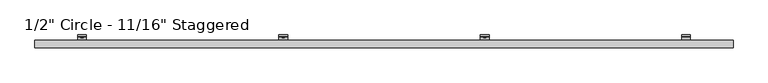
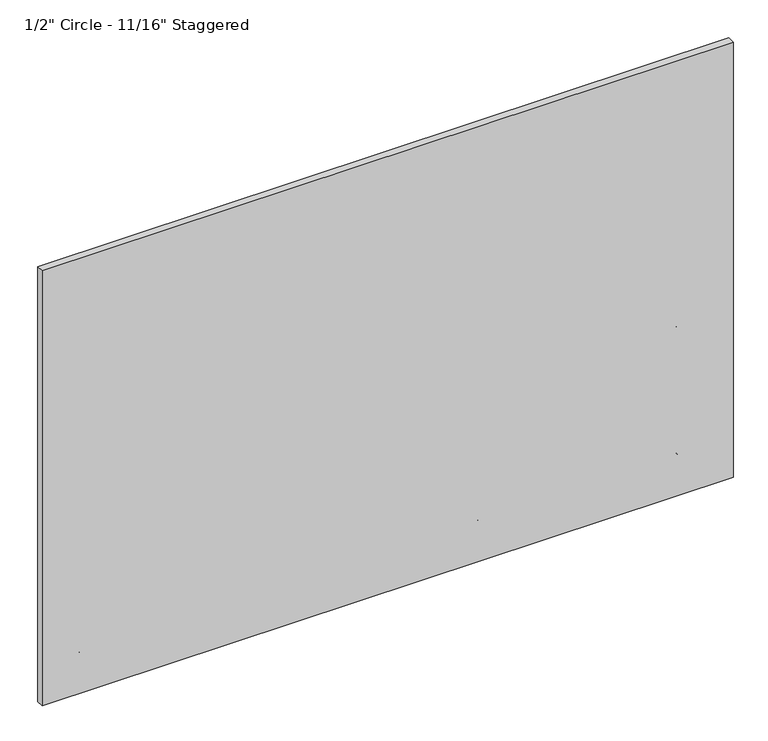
"""IFC4 building model written with IfcOpenShell, lengths in millimetres: plate geometry."""

from ifc_helpers import new_model, si_unit, point, frame, frame_2d, origin, place, context, project, spatial, polyline, circle_curve, trimmed, segment, composite_curve, outline, extrude, source, transform, mapped, element, save
from ifc_brep_helpers import plane_surface, cylinder_surface, revolved_surface, advanced_brep


def plate_a8714ed1(model_context):
    return source(origin(), model_context, "Body", "SolidModel", [
        advanced_brep(
        [(1285.875, -47.625, 737.3555208), (1285.875, -51.2819443, 729.6934884), (1285.875, -89.5163624, 702.9214606), (1285.875, -92.9330442, 706.3381424), (1285.875, -54.3526876, 733.3523989), (1285.875, -52.4002, 737.3555917), (1285.875, -52.4002, 771.5482059), (1285.875, -47.625, 771.5482059), (1323.975, -47.625, 737.3555208), (1323.975, -47.625, 771.5482059), (1323.975, -52.4002, 771.5482059), (1323.975, -52.4002, 737.3555917), (1323.975, -54.3526876, 733.3523989), (1323.975, -92.9330442, 706.3381424), (1323.975, -89.5163624, 702.9214606), (1323.975, -51.2819443, 729.6934884), (1311.6661889, -52.4002, 757.5029897), (1311.6661889, -52.4002, 751.1529897), (1295.4383287, -52.4002, 751.1529897), (1295.4383287, -52.4002, 757.5029897), (1311.6661889, -47.625, 751.1529897), (1311.6661889, -47.625, 757.5029897), (1295.4383287, -47.625, 757.5029897), (1295.4383287, -47.625, 751.1529897)],
        [
            (0, 1, circle_curve(frame((1285.875, -57.4802202, 737.3555208), z_axis=(-1.0, 0.0, 0.0), x_axis=(0.0, -1.0, 0.0)), 9.8552202)),
            (1, 2),
            (2, 3),
            (3, 4),
            (4, 5, circle_curve(frame((1285.875, -57.4803246, 737.3555917), z_axis=(1.0, 0.0, 0.0), x_axis=(0.0, -1.0, 0.0)), 5.0801246)),
            (5, 6),
            (6, 7),
            (7, 0),
            (8, 9),
            (9, 10),
            (10, 11),
            (11, 12, circle_curve(frame((1323.975, -57.4803246, 737.3555917), z_axis=(-1.0, 0.0, 0.0), x_axis=(0.0, -1.0, 0.0)), 5.0801246)),
            (12, 13),
            (13, 14),
            (14, 15),
            (15, 8, circle_curve(frame((1323.975, -57.4802202, 737.3555208), z_axis=(1.0, 0.0, 0.0), x_axis=(0.0, -1.0, 0.0)), 9.8552202)),
            (4, 12),
            (11, 5),
            (10, 6),
            (16, 17, circle_curve(frame((1311.6661889, -52.4002, 754.3279897), z_axis=(0.0, 1.0, 0.0), x_axis=(0.0, 0.0, -1.0)), 3.175)),
            (17, 18),
            (18, 19, circle_curve(frame((1295.4383287, -52.4002, 754.3279897), z_axis=(0.0, 1.0, 0.0), x_axis=(0.0, 0.0, -1.0)), 3.175)),
            (19, 16),
            (9, 7),
            (8, 0),
            (20, 21, circle_curve(frame((1311.6661889, -47.625, 754.3279897), z_axis=(0.0, -1.0, 0.0), x_axis=(0.0, 0.0, -1.0)), 3.175)),
            (21, 22),
            (22, 23, circle_curve(frame((1295.4383287, -47.625, 754.3279897), z_axis=(0.0, -1.0, 0.0), x_axis=(0.0, 0.0, -1.0)), 3.175)),
            (23, 20),
            (15, 1),
            (20, 17),
            (16, 21),
            (19, 22),
            (18, 23),
            (14, 2),
            (13, 3),
        ],
        [
            plane_surface(frame((1285.875, -67.3354404, 737.3555208), z_axis=(-1.0, 0.0, 0.0), x_axis=(0.0, 0.0, 1.0))),
            plane_surface(frame((1323.975, -67.3354404, 737.3555208), z_axis=(1.0, 0.0, 0.0), x_axis=(0.0, 0.0, -1.0))),
            revolved_surface(polyline([(1323.975, -62.5604492, 737.3555917), (1285.875, -62.5604492, 737.3555917)]), (1323.975, -57.4803246, 737.3555917), (1.0, 0.0, 0.0)),
            plane_surface(frame((1285.875, -52.4002, 737.3555917), z_axis=(0.0, -1.0, 0.0), x_axis=(1.0, 0.0, 0.0))),
            plane_surface(frame((1285.875, -52.4002, 771.5482059), z_axis=(0.0, 0.0, 1.0), x_axis=(1.0, 0.0, 0.0))),
            plane_surface(frame((1285.875, -47.625, 771.5482059), z_axis=(0.0, 1.0, 6.99569853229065e-12), x_axis=(1.0, 0.0, 0.0))),
            cylinder_surface(frame((1323.975, -57.4802202, 737.3555208), z_axis=(-1.0, 0.0, 0.0), x_axis=(0.0, -1.0, 0.0)), 9.8552202),
            revolved_surface(polyline([(1311.6661889, -52.4002, 751.1529897), (1311.6661889, -47.625, 751.1529897)]), (1311.6661889, -25.6669948, 754.3279897), (0.0, -1.0, 0.0)),
            plane_surface(frame((1311.6661889, -86.677982, 757.5029897), z_axis=(0.0, 0.0, -1.0), x_axis=(0.0, 1.0, 0.0))),
            revolved_surface(polyline([(1295.4383287, -52.4002, 751.1529897), (1295.4383287, -47.625, 751.1529897)]), (1295.4383287, -25.6669948, 754.3279897), (0.0, -1.0, 0.0)),
            plane_surface(frame((1295.4383287, -86.677982, 751.1529897), z_axis=(-2.7237733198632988e-11, 0.0, 1.0), x_axis=(0.0, 1.0, 0.0))),
            plane_surface(frame((1285.875, -51.2819443, 729.6934884), z_axis=(0.0, 0.5735764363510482, -0.8191520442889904), x_axis=(1.0, 0.0, 0.0))),
            plane_surface(frame((1285.875, -89.5163624, 702.9214606), z_axis=(0.0, -0.7071067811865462, -0.7071067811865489), x_axis=(1.0, 0.0, 0.0))),
            plane_surface(frame((1285.875, -92.9330442, 706.3381424), z_axis=(0.0, -0.5735764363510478, 0.8191520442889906), x_axis=(1.0, 0.0, 0.0))),
        ],
        [
            (0, [[1, 2, 3, 4, 5, 6, 7, 8]]),
            (1, [[9, 10, 11, 12, 13, 14, 15, 16]]),
            (2, [[-5, 17, -12, 18]]),
            (3, [[-6, -18, -11, 19], [20, 21, 22, 23]]),
            (4, [[-7, -19, -10, 24]]),
            (5, [[-8, -24, -9, 25], [26, 27, 28, 29]]),
            (6, [[-1, -25, -16, 30]]),
            (7, [[31, -20, 32, -26]]),
            (8, [[-32, -23, 33, -27]]),
            (9, [[-33, -22, 34, -28]]),
            (10, [[-31, -29, -34, -21]]),
            (11, [[-2, -30, -15, 35]]),
            (12, [[-3, -35, -14, 36]]),
            (13, [[-4, -36, -13, -17]]),
        ],
    ),
        extrude(outline(polyline([(754.5048329, 429.9570034), (750.1591204, 432.4660017), (750.1591204, 437.4839983), (754.5048329, 439.9929966), (758.8505454, 437.4839983), (758.8505454, 432.4660017), (754.5048329, 429.9570034)])), frame((0.0, -58.7607779, 0.0), z_axis=(0.0, 1.0, 0.0), x_axis=(0.0, 0.0, 1.0)), (0.0, 0.0, 1.0), 11.1357779),
        extrude(outline(composite_curve([segment(trimmed(circle_curve(frame_2d((754.5981399, 434.975)), 6.35), [point((754.5981399, 441.325))], [point((754.5981399, 428.625))], False, "CARTESIAN"), True, "CONTINUOUS"), segment(trimmed(circle_curve(frame_2d((754.5981399, 434.975)), 6.35), [point((754.5981399, 428.625))], [point((754.5981399, 441.325))], False, "CARTESIAN"), True, "CONTINUOUS")], self_intersect=False)), frame((0.0, -57.0817743, 0.0), z_axis=(0.0, 1.0, 0.0), x_axis=(0.0, 0.0, 1.0)), (0.0, 0.0, 1.0), 9.4567743),
        advanced_brep(
        [(415.925, -47.625, 737.3555208), (415.925, -51.2819443, 729.6934884), (415.925, -89.5163624, 702.9214606), (415.925, -92.9330442, 706.3381424), (415.925, -54.3526876, 733.3523989), (415.925, -52.4002, 737.3555917), (415.925, -52.4002, 771.5482059), (415.925, -47.625, 771.5482059), (454.025, -47.625, 737.3555208), (454.025, -47.625, 771.5482059), (454.025, -52.4002, 771.5482059), (454.025, -52.4002, 737.3555917), (454.025, -54.3526876, 733.3523989), (454.025, -92.9330442, 706.3381424), (454.025, -89.5163624, 702.9214606), (454.025, -51.2819443, 729.6934884), (441.7161889, -52.4002, 757.5029897), (441.7161889, -52.4002, 751.1529897), (425.4883287, -52.4002, 751.1529897), (425.4883287, -52.4002, 757.5029897), (441.7161889, -47.625, 751.1529897), (441.7161889, -47.625, 757.5029897), (425.4883287, -47.625, 757.5029897), (425.4883287, -47.625, 751.1529897)],
        [
            (0, 1, circle_curve(frame((415.925, -57.4802202, 737.3555208), z_axis=(-1.0, 0.0, 0.0), x_axis=(0.0, -1.0, 0.0)), 9.8552202)),
            (1, 2),
            (2, 3),
            (3, 4),
            (4, 5, circle_curve(frame((415.925, -57.4803246, 737.3555917), z_axis=(1.0, 0.0, 0.0), x_axis=(0.0, -1.0, 0.0)), 5.0801246)),
            (5, 6),
            (6, 7),
            (7, 0),
            (8, 9),
            (9, 10),
            (10, 11),
            (11, 12, circle_curve(frame((454.025, -57.4803246, 737.3555917), z_axis=(-1.0, 0.0, 0.0), x_axis=(0.0, -1.0, 0.0)), 5.0801246)),
            (12, 13),
            (13, 14),
            (14, 15),
            (15, 8, circle_curve(frame((454.025, -57.4802202, 737.3555208), z_axis=(1.0, 0.0, 0.0), x_axis=(0.0, -1.0, 0.0)), 9.8552202)),
            (4, 12),
            (11, 5),
            (10, 6),
            (16, 17, circle_curve(frame((441.7161889, -52.4002, 754.3279897), z_axis=(0.0, 1.0, 0.0), x_axis=(0.0, 0.0, -1.0)), 3.175)),
            (17, 18),
            (18, 19, circle_curve(frame((425.4883287, -52.4002, 754.3279897), z_axis=(0.0, 1.0, 0.0), x_axis=(0.0, 0.0, -1.0)), 3.175)),
            (19, 16),
            (9, 7),
            (8, 0),
            (20, 21, circle_curve(frame((441.7161889, -47.625, 754.3279897), z_axis=(0.0, -1.0, 0.0), x_axis=(0.0, 0.0, -1.0)), 3.175)),
            (21, 22),
            (22, 23, circle_curve(frame((425.4883287, -47.625, 754.3279897), z_axis=(0.0, -1.0, 0.0), x_axis=(0.0, 0.0, -1.0)), 3.175)),
            (23, 20),
            (15, 1),
            (20, 17),
            (16, 21),
            (19, 22),
            (18, 23),
            (14, 2),
            (13, 3),
        ],
        [
            plane_surface(frame((415.925, -67.3354404, 737.3555208), z_axis=(-1.0, 0.0, 0.0), x_axis=(0.0, 0.0, 1.0))),
            plane_surface(frame((454.025, -67.3354404, 737.3555208), z_axis=(1.0, 0.0, 0.0), x_axis=(0.0, 0.0, -1.0))),
            revolved_surface(polyline([(454.025, -62.5604492, 737.3555917), (415.925, -62.5604492, 737.3555917)]), (454.025, -57.4803246, 737.3555917), (1.0, 0.0, 0.0)),
            plane_surface(frame((415.925, -52.4002, 737.3555917), z_axis=(0.0, -1.0, 0.0), x_axis=(1.0, 0.0, 0.0))),
            plane_surface(frame((415.925, -52.4002, 771.5482059), z_axis=(0.0, 0.0, 1.0), x_axis=(1.0, 0.0, 0.0))),
            plane_surface(frame((415.925, -47.625, 771.5482059), z_axis=(0.0, 1.0, 6.99569853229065e-12), x_axis=(1.0, 0.0, 0.0))),
            cylinder_surface(frame((454.025, -57.4802202, 737.3555208), z_axis=(-1.0, 0.0, 0.0), x_axis=(0.0, -1.0, 0.0)), 9.8552202),
            revolved_surface(polyline([(441.7161889, -52.4002, 751.1529897), (441.7161889, -47.625, 751.1529897)]), (441.7161889, -25.6669948, 754.3279897), (0.0, -1.0, 0.0)),
            plane_surface(frame((441.7161889, -86.677982, 757.5029897), z_axis=(0.0, 0.0, -1.0), x_axis=(0.0, 1.0, 0.0))),
            revolved_surface(polyline([(425.4883287, -52.4002, 751.1529897), (425.4883287, -47.625, 751.1529897)]), (425.4883287, -25.6669948, 754.3279897), (0.0, -1.0, 0.0)),
            plane_surface(frame((425.4883287, -86.677982, 751.1529897), z_axis=(-2.7237733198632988e-11, 0.0, 1.0), x_axis=(0.0, 1.0, 0.0))),
            plane_surface(frame((415.925, -51.2819443, 729.6934884), z_axis=(0.0, 0.5735764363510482, -0.8191520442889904), x_axis=(1.0, 0.0, 0.0))),
            plane_surface(frame((415.925, -89.5163624, 702.9214606), z_axis=(0.0, -0.7071067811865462, -0.7071067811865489), x_axis=(1.0, 0.0, 0.0))),
            plane_surface(frame((415.925, -92.9330442, 706.3381424), z_axis=(0.0, -0.5735764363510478, 0.8191520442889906), x_axis=(1.0, 0.0, 0.0))),
        ],
        [
            (0, [[1, 2, 3, 4, 5, 6, 7, 8]]),
            (1, [[9, 10, 11, 12, 13, 14, 15, 16]]),
            (2, [[-5, 17, -12, 18]]),
            (3, [[-6, -18, -11, 19], [20, 21, 22, 23]]),
            (4, [[-7, -19, -10, 24]]),
            (5, [[-8, -24, -9, 25], [26, 27, 28, 29]]),
            (6, [[-1, -25, -16, 30]]),
            (7, [[31, -20, 32, -26]]),
            (8, [[-32, -23, 33, -27]]),
            (9, [[-33, -22, 34, -28]]),
            (10, [[-31, -29, -34, -21]]),
            (11, [[-2, -30, -15, 35]]),
            (12, [[-3, -35, -14, 36]]),
            (13, [[-4, -36, -13, -17]]),
        ],
    ),
        extrude(outline(polyline([(754.5048329, -439.9929966), (750.1591204, -437.4839983), (750.1591204, -432.4660017), (754.5048329, -429.9570034), (758.8505454, -432.4660017), (758.8505454, -437.4839983), (754.5048329, -439.9929966)])), frame((0.0, -58.7607779, 0.0), z_axis=(0.0, 1.0, 0.0), x_axis=(0.0, 0.0, 1.0)), (0.0, 0.0, 1.0), 11.1357779),
        extrude(outline(composite_curve([segment(trimmed(circle_curve(frame_2d((754.5981399, -434.975)), 6.35), [point((754.5981399, -428.625))], [point((754.5981399, -441.325))], False, "CARTESIAN"), True, "CONTINUOUS"), segment(trimmed(circle_curve(frame_2d((754.5981399, -434.975)), 6.35), [point((754.5981399, -441.325))], [point((754.5981399, -428.625))], False, "CARTESIAN"), True, "CONTINUOUS")], self_intersect=False)), frame((0.0, -57.0817743, 0.0), z_axis=(0.0, 1.0, 0.0), x_axis=(0.0, 0.0, 1.0)), (0.0, 0.0, 1.0), 9.4567743),
        advanced_brep(
        [(-454.025, -47.625, 737.3555208), (-454.025, -51.2819443, 729.6934884), (-454.025, -89.5163624, 702.9214606), (-454.025, -92.9330442, 706.3381424), (-454.025, -54.3526876, 733.3523989), (-454.025, -52.4002, 737.3555917), (-454.025, -52.4002, 771.5482059), (-454.025, -47.625, 771.5482059), (-415.925, -47.625, 737.3555208), (-415.925, -47.625, 771.5482059), (-415.925, -52.4002, 771.5482059), (-415.925, -52.4002, 737.3555917), (-415.925, -54.3526876, 733.3523989), (-415.925, -92.9330442, 706.3381424), (-415.925, -89.5163624, 702.9214606), (-415.925, -51.2819443, 729.6934884), (-428.2338111, -52.4002, 757.5029897), (-428.2338111, -52.4002, 751.1529897), (-444.4616713, -52.4002, 751.1529897), (-444.4616713, -52.4002, 757.5029897), (-428.2338111, -47.625, 751.1529897), (-428.2338111, -47.625, 757.5029897), (-444.4616713, -47.625, 757.5029897), (-444.4616713, -47.625, 751.1529897)],
        [
            (0, 1, circle_curve(frame((-454.025, -57.4802202, 737.3555208), z_axis=(-1.0, 0.0, 0.0), x_axis=(0.0, -1.0, 0.0)), 9.8552202)),
            (1, 2),
            (2, 3),
            (3, 4),
            (4, 5, circle_curve(frame((-454.025, -57.4803246, 737.3555917), z_axis=(1.0, 0.0, 0.0), x_axis=(0.0, -1.0, 0.0)), 5.0801246)),
            (5, 6),
            (6, 7),
            (7, 0),
            (8, 9),
            (9, 10),
            (10, 11),
            (11, 12, circle_curve(frame((-415.925, -57.4803246, 737.3555917), z_axis=(-1.0, 0.0, 0.0), x_axis=(0.0, -1.0, 0.0)), 5.0801246)),
            (12, 13),
            (13, 14),
            (14, 15),
            (15, 8, circle_curve(frame((-415.925, -57.4802202, 737.3555208), z_axis=(1.0, 0.0, 0.0), x_axis=(0.0, -1.0, 0.0)), 9.8552202)),
            (4, 12),
            (11, 5),
            (10, 6),
            (16, 17, circle_curve(frame((-428.2338111, -52.4002, 754.3279897), z_axis=(0.0, 1.0, 0.0), x_axis=(0.0, 0.0, -1.0)), 3.175)),
            (17, 18),
            (18, 19, circle_curve(frame((-444.4616713, -52.4002, 754.3279897), z_axis=(0.0, 1.0, 0.0), x_axis=(0.0, 0.0, -1.0)), 3.175)),
            (19, 16),
            (9, 7),
            (8, 0),
            (20, 21, circle_curve(frame((-428.2338111, -47.625, 754.3279897), z_axis=(0.0, -1.0, 0.0), x_axis=(0.0, 0.0, -1.0)), 3.175)),
            (21, 22),
            (22, 23, circle_curve(frame((-444.4616713, -47.625, 754.3279897), z_axis=(0.0, -1.0, 0.0), x_axis=(0.0, 0.0, -1.0)), 3.175)),
            (23, 20),
            (15, 1),
            (20, 17),
            (16, 21),
            (19, 22),
            (18, 23),
            (14, 2),
            (13, 3),
        ],
        [
            plane_surface(frame((-454.025, -67.3354404, 737.3555208), z_axis=(-1.0, 0.0, 0.0), x_axis=(0.0, 0.0, 1.0))),
            plane_surface(frame((-415.925, -67.3354404, 737.3555208), z_axis=(1.0, 0.0, 0.0), x_axis=(0.0, 0.0, -1.0))),
            revolved_surface(polyline([(-415.925, -62.5604492, 737.3555917), (-454.025, -62.5604492, 737.3555917)]), (-415.925, -57.4803246, 737.3555917), (1.0, 0.0, 0.0)),
            plane_surface(frame((-454.025, -52.4002, 737.3555917), z_axis=(0.0, -1.0, 0.0), x_axis=(1.0, 0.0, 0.0))),
            plane_surface(frame((-454.025, -52.4002, 771.5482059), z_axis=(0.0, 0.0, 1.0), x_axis=(1.0, 0.0, 0.0))),
            plane_surface(frame((-454.025, -47.625, 771.5482059), z_axis=(0.0, 1.0, 6.99569853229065e-12), x_axis=(1.0, 0.0, 0.0))),
            cylinder_surface(frame((-415.925, -57.4802202, 737.3555208), z_axis=(-1.0, 0.0, 0.0), x_axis=(0.0, -1.0, 0.0)), 9.8552202),
            revolved_surface(polyline([(-428.2338111, -52.4002, 751.1529897), (-428.2338111, -47.625, 751.1529897)]), (-428.2338111, -25.6669948, 754.3279897), (0.0, -1.0, 0.0)),
            plane_surface(frame((-428.2338111, -86.677982, 757.5029897), z_axis=(0.0, 0.0, -1.0), x_axis=(0.0, 1.0, 0.0))),
            revolved_surface(polyline([(-444.4616713, -52.4002, 751.1529897), (-444.4616713, -47.625, 751.1529897)]), (-444.4616713, -25.6669948, 754.3279897), (0.0, -1.0, 0.0)),
            plane_surface(frame((-444.4616713, -86.677982, 751.1529897), z_axis=(-2.7237733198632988e-11, 0.0, 1.0), x_axis=(0.0, 1.0, 0.0))),
            plane_surface(frame((-454.025, -51.2819443, 729.6934884), z_axis=(0.0, 0.5735764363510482, -0.8191520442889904), x_axis=(1.0, 0.0, 0.0))),
            plane_surface(frame((-454.025, -89.5163624, 702.9214606), z_axis=(0.0, -0.7071067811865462, -0.7071067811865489), x_axis=(1.0, 0.0, 0.0))),
            plane_surface(frame((-454.025, -92.9330442, 706.3381424), z_axis=(0.0, -0.5735764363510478, 0.8191520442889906), x_axis=(1.0, 0.0, 0.0))),
        ],
        [
            (0, [[1, 2, 3, 4, 5, 6, 7, 8]]),
            (1, [[9, 10, 11, 12, 13, 14, 15, 16]]),
            (2, [[-5, 17, -12, 18]]),
            (3, [[-6, -18, -11, 19], [20, 21, 22, 23]]),
            (4, [[-7, -19, -10, 24]]),
            (5, [[-8, -24, -9, 25], [26, 27, 28, 29]]),
            (6, [[-1, -25, -16, 30]]),
            (7, [[31, -20, 32, -26]]),
            (8, [[-32, -23, 33, -27]]),
            (9, [[-33, -22, 34, -28]]),
            (10, [[-31, -29, -34, -21]]),
            (11, [[-2, -30, -15, 35]]),
            (12, [[-3, -35, -14, 36]]),
            (13, [[-4, -36, -13, -17]]),
        ],
    ),
        extrude(outline(polyline([(754.5048329, -1309.9429966), (750.1591204, -1307.4339983), (750.1591204, -1302.4160017), (754.5048329, -1299.9070034), (758.8505454, -1302.4160017), (758.8505454, -1307.4339983), (754.5048329, -1309.9429966)])), frame((0.0, -58.7607779, 0.0), z_axis=(0.0, 1.0, 0.0), x_axis=(0.0, 0.0, 1.0)), (0.0, 0.0, 1.0), 11.1357779),
        extrude(outline(composite_curve([segment(trimmed(circle_curve(frame_2d((754.5981399, -1304.925)), 6.35), [point((754.5981399, -1298.575))], [point((754.5981399, -1311.275))], False, "CARTESIAN"), True, "CONTINUOUS"), segment(trimmed(circle_curve(frame_2d((754.5981399, -1304.925)), 6.35), [point((754.5981399, -1311.275))], [point((754.5981399, -1298.575))], False, "CARTESIAN"), True, "CONTINUOUS")], self_intersect=False)), frame((0.0, -57.0817743, 0.0), z_axis=(0.0, 1.0, 0.0), x_axis=(0.0, 0.0, 1.0)), (0.0, 0.0, 1.0), 9.4567743),
        advanced_brep(
        [(-1323.975, -47.625, 737.3555208), (-1323.975, -51.2819443, 729.6934884), (-1323.975, -89.5163624, 702.9214606), (-1323.975, -92.9330442, 706.3381424), (-1323.975, -54.3526876, 733.3523989), (-1323.975, -52.4002, 737.3555917), (-1323.975, -52.4002, 771.5482059), (-1323.975, -47.625, 771.5482059), (-1285.875, -47.625, 737.3555208), (-1285.875, -47.625, 771.5482059), (-1285.875, -52.4002, 771.5482059), (-1285.875, -52.4002, 737.3555917), (-1285.875, -54.3526876, 733.3523989), (-1285.875, -92.9330442, 706.3381424), (-1285.875, -89.5163624, 702.9214606), (-1285.875, -51.2819443, 729.6934884), (-1298.1838111, -52.4002, 757.5029897), (-1298.1838111, -52.4002, 751.1529897), (-1314.4116713, -52.4002, 751.1529897), (-1314.4116713, -52.4002, 757.5029897), (-1298.1838111, -47.625, 751.1529897), (-1298.1838111, -47.625, 757.5029897), (-1314.4116713, -47.625, 757.5029897), (-1314.4116713, -47.625, 751.1529897)],
        [
            (0, 1, circle_curve(frame((-1323.975, -57.4802202, 737.3555208), z_axis=(-1.0, 0.0, 0.0), x_axis=(0.0, -1.0, 0.0)), 9.8552202)),
            (1, 2),
            (2, 3),
            (3, 4),
            (4, 5, circle_curve(frame((-1323.975, -57.4803246, 737.3555917), z_axis=(1.0, 0.0, 0.0), x_axis=(0.0, -1.0, 0.0)), 5.0801246)),
            (5, 6),
            (6, 7),
            (7, 0),
            (8, 9),
            (9, 10),
            (10, 11),
            (11, 12, circle_curve(frame((-1285.875, -57.4803246, 737.3555917), z_axis=(-1.0, 0.0, 0.0), x_axis=(0.0, -1.0, 0.0)), 5.0801246)),
            (12, 13),
            (13, 14),
            (14, 15),
            (15, 8, circle_curve(frame((-1285.875, -57.4802202, 737.3555208), z_axis=(1.0, 0.0, 0.0), x_axis=(0.0, -1.0, 0.0)), 9.8552202)),
            (4, 12),
            (11, 5),
            (10, 6),
            (16, 17, circle_curve(frame((-1298.1838111, -52.4002, 754.3279897), z_axis=(0.0, 1.0, 0.0), x_axis=(0.0, 0.0, -1.0)), 3.175)),
            (17, 18),
            (18, 19, circle_curve(frame((-1314.4116713, -52.4002, 754.3279897), z_axis=(0.0, 1.0, 0.0), x_axis=(0.0, 0.0, -1.0)), 3.175)),
            (19, 16),
            (9, 7),
            (8, 0),
            (20, 21, circle_curve(frame((-1298.1838111, -47.625, 754.3279897), z_axis=(0.0, -1.0, 0.0), x_axis=(0.0, 0.0, -1.0)), 3.175)),
            (21, 22),
            (22, 23, circle_curve(frame((-1314.4116713, -47.625, 754.3279897), z_axis=(0.0, -1.0, 0.0), x_axis=(0.0, 0.0, -1.0)), 3.175)),
            (23, 20),
            (15, 1),
            (20, 17),
            (16, 21),
            (19, 22),
            (18, 23),
            (14, 2),
            (13, 3),
        ],
        [
            plane_surface(frame((-1323.975, -67.3354404, 737.3555208), z_axis=(-1.0, 0.0, 0.0), x_axis=(0.0, 0.0, 1.0))),
            plane_surface(frame((-1285.875, -67.3354404, 737.3555208), z_axis=(1.0, 0.0, 0.0), x_axis=(0.0, 0.0, -1.0))),
            revolved_surface(polyline([(-1285.875, -62.5604492, 737.3555917), (-1323.975, -62.5604492, 737.3555917)]), (-1285.875, -57.4803246, 737.3555917), (1.0, 0.0, 0.0)),
            plane_surface(frame((-1323.975, -52.4002, 737.3555917), z_axis=(0.0, -1.0, 0.0), x_axis=(1.0, 0.0, 0.0))),
            plane_surface(frame((-1323.975, -52.4002, 771.5482059), z_axis=(0.0, 0.0, 1.0), x_axis=(1.0, 0.0, 0.0))),
            plane_surface(frame((-1323.975, -47.625, 771.5482059), z_axis=(0.0, 1.0, 6.99569853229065e-12), x_axis=(1.0, 0.0, 0.0))),
            cylinder_surface(frame((-1285.875, -57.4802202, 737.3555208), z_axis=(-1.0, 0.0, 0.0), x_axis=(0.0, -1.0, 0.0)), 9.8552202),
            revolved_surface(polyline([(-1298.1838111, -52.4002, 751.1529897), (-1298.1838111, -47.625, 751.1529897)]), (-1298.1838111, -25.6669948, 754.3279897), (0.0, -1.0, 0.0)),
            plane_surface(frame((-1298.1838111, -86.677982, 757.5029897), z_axis=(0.0, 0.0, -1.0), x_axis=(0.0, 1.0, 0.0))),
            revolved_surface(polyline([(-1314.4116713, -52.4002, 751.1529897), (-1314.4116713, -47.625, 751.1529897)]), (-1314.4116713, -25.6669948, 754.3279897), (0.0, -1.0, 0.0)),
            plane_surface(frame((-1314.4116713, -86.677982, 751.1529897), z_axis=(-2.7237733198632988e-11, 0.0, 1.0), x_axis=(0.0, 1.0, 0.0))),
            plane_surface(frame((-1323.975, -51.2819443, 729.6934884), z_axis=(0.0, 0.5735764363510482, -0.8191520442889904), x_axis=(1.0, 0.0, 0.0))),
            plane_surface(frame((-1323.975, -89.5163624, 702.9214606), z_axis=(0.0, -0.7071067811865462, -0.7071067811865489), x_axis=(1.0, 0.0, 0.0))),
            plane_surface(frame((-1323.975, -92.9330442, 706.3381424), z_axis=(0.0, -0.5735764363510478, 0.8191520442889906), x_axis=(1.0, 0.0, 0.0))),
        ],
        [
            (0, [[1, 2, 3, 4, 5, 6, 7, 8]]),
            (1, [[9, 10, 11, 12, 13, 14, 15, 16]]),
            (2, [[-5, 17, -12, 18]]),
            (3, [[-6, -18, -11, 19], [20, 21, 22, 23]]),
            (4, [[-7, -19, -10, 24]]),
            (5, [[-8, -24, -9, 25], [26, 27, 28, 29]]),
            (6, [[-1, -25, -16, 30]]),
            (7, [[31, -20, 32, -26]]),
            (8, [[-32, -23, 33, -27]]),
            (9, [[-33, -22, 34, -28]]),
            (10, [[-31, -29, -34, -21]]),
            (11, [[-2, -30, -15, 35]]),
            (12, [[-3, -35, -14, 36]]),
            (13, [[-4, -36, -13, -17]]),
        ],
    ),
        extrude(outline(polyline([(169.8795323, 1299.9070034), (165.5338197, 1302.4160017), (165.5338197, 1307.4339983), (169.8795323, 1309.9429966), (174.2252448, 1307.4339983), (174.2252448, 1302.4160017), (169.8795323, 1299.9070034)])), frame((0.0, -58.7607779, 0.0), z_axis=(0.0, 1.0, 0.0), x_axis=(0.0, 0.0, 1.0)), (0.0, 0.0, 1.0), 11.1357779),
        extrude(outline(composite_curve([segment(trimmed(circle_curve(frame_2d((169.9728392, 1304.925)), 6.35), [point((169.9728392, 1311.275))], [point((169.9728392, 1298.575))], False, "CARTESIAN"), True, "CONTINUOUS"), segment(trimmed(circle_curve(frame_2d((169.9728392, 1304.925)), 6.35), [point((169.9728392, 1298.575))], [point((169.9728392, 1311.275))], False, "CARTESIAN"), True, "CONTINUOUS")], self_intersect=False)), frame((0.0, -57.0817743, 0.0), z_axis=(0.0, 1.0, 0.0), x_axis=(0.0, 0.0, 1.0)), (0.0, 0.0, 1.0), 9.4567743),
        advanced_brep(
        [(1285.875, -47.625, 152.7302202), (1285.875, -51.2819443, 145.0681877), (1285.875, -89.5163624, 118.29616), (1285.875, -92.9330442, 121.7128418), (1285.875, -54.3526876, 148.7270983), (1285.875, -52.4002, 152.7302911), (1285.875, -52.4002, 186.9229053), (1285.875, -47.625, 186.9229053), (1323.975, -47.625, 152.7302202), (1323.975, -47.625, 186.9229053), (1323.975, -52.4002, 186.9229053), (1323.975, -52.4002, 152.7302911), (1323.975, -54.3526876, 148.7270983), (1323.975, -92.9330442, 121.7128418), (1323.975, -89.5163624, 118.29616), (1323.975, -51.2819443, 145.0681877), (1311.6661889, -52.4002, 172.8776891), (1311.6661889, -52.4002, 166.5276891), (1295.4383287, -52.4002, 166.5276891), (1295.4383287, -52.4002, 172.8776891), (1311.6661889, -47.625, 166.5276891), (1311.6661889, -47.625, 172.8776891), (1295.4383287, -47.625, 172.8776891), (1295.4383287, -47.625, 166.5276891)],
        [
            (0, 1, circle_curve(frame((1285.875, -57.4802202, 152.7302202), z_axis=(-1.0, 0.0, 0.0), x_axis=(0.0, -1.0, 0.0)), 9.8552202)),
            (1, 2),
            (2, 3),
            (3, 4),
            (4, 5, circle_curve(frame((1285.875, -57.4803246, 152.7302911), z_axis=(1.0, 0.0, 0.0), x_axis=(0.0, -1.0, 0.0)), 5.0801246)),
            (5, 6),
            (6, 7),
            (7, 0),
            (8, 9),
            (9, 10),
            (10, 11),
            (11, 12, circle_curve(frame((1323.975, -57.4803246, 152.7302911), z_axis=(-1.0, 0.0, 0.0), x_axis=(0.0, -1.0, 0.0)), 5.0801246)),
            (12, 13),
            (13, 14),
            (14, 15),
            (15, 8, circle_curve(frame((1323.975, -57.4802202, 152.7302202), z_axis=(1.0, 0.0, 0.0), x_axis=(0.0, -1.0, 0.0)), 9.8552202)),
            (4, 12),
            (11, 5),
            (10, 6),
            (16, 17, circle_curve(frame((1311.6661889, -52.4002, 169.7026891), z_axis=(0.0, 1.0, 0.0), x_axis=(0.0, 0.0, -1.0)), 3.175)),
            (17, 18),
            (18, 19, circle_curve(frame((1295.4383287, -52.4002, 169.7026891), z_axis=(0.0, 1.0, 0.0), x_axis=(0.0, 0.0, -1.0)), 3.175)),
            (19, 16),
            (9, 7),
            (8, 0),
            (20, 21, circle_curve(frame((1311.6661889, -47.625, 169.7026891), z_axis=(0.0, -1.0, 0.0), x_axis=(0.0, 0.0, -1.0)), 3.175)),
            (21, 22),
            (22, 23, circle_curve(frame((1295.4383287, -47.625, 169.7026891), z_axis=(0.0, -1.0, 0.0), x_axis=(0.0, 0.0, -1.0)), 3.175)),
            (23, 20),
            (15, 1),
            (20, 17),
            (16, 21),
            (19, 22),
            (18, 23),
            (14, 2),
            (13, 3),
        ],
        [
            plane_surface(frame((1285.875, -67.3354404, 152.7302202), z_axis=(-1.0, 0.0, 0.0), x_axis=(0.0, 0.0, 1.0))),
            plane_surface(frame((1323.975, -67.3354404, 152.7302202), z_axis=(1.0, 0.0, 0.0), x_axis=(0.0, 0.0, -1.0))),
            revolved_surface(polyline([(1323.975, -62.5604492, 152.7302911), (1285.875, -62.5604492, 152.7302911)]), (1323.975, -57.4803246, 152.7302911), (1.0, 0.0, 0.0)),
            plane_surface(frame((1285.875, -52.4002, 152.7302911), z_axis=(0.0, -1.0, 0.0), x_axis=(1.0, 0.0, 0.0))),
            plane_surface(frame((1285.875, -52.4002, 186.9229053), z_axis=(0.0, 0.0, 1.0), x_axis=(1.0, 0.0, 0.0))),
            plane_surface(frame((1285.875, -47.625, 186.9229053), z_axis=(0.0, 1.0, 6.99569853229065e-12), x_axis=(1.0, 0.0, 0.0))),
            cylinder_surface(frame((1323.975, -57.4802202, 152.7302202), z_axis=(-1.0, 0.0, 0.0), x_axis=(0.0, -1.0, 0.0)), 9.8552202),
            revolved_surface(polyline([(1311.6661889, -52.4002, 166.52768909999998), (1311.6661889, -47.625, 166.52768909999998)]), (1311.6661889, -25.6669948, 169.7026891), (0.0, -1.0, 0.0)),
            plane_surface(frame((1311.6661889, -86.677982, 172.8776891), z_axis=(0.0, 0.0, -1.0), x_axis=(0.0, 1.0, 0.0))),
            revolved_surface(polyline([(1295.4383287, -52.4002, 166.52768909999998), (1295.4383287, -47.625, 166.52768909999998)]), (1295.4383287, -25.6669948, 169.7026891), (0.0, -1.0, 0.0)),
            plane_surface(frame((1295.4383287, -86.677982, 166.5276891), z_axis=(-2.723774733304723e-11, 0.0, 1.0), x_axis=(0.0, 1.0, 0.0))),
            plane_surface(frame((1285.875, -51.2819443, 145.0681877), z_axis=(0.0, 0.5735764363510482, -0.8191520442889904), x_axis=(1.0, 0.0, 0.0))),
            plane_surface(frame((1285.875, -89.5163624, 118.29616), z_axis=(0.0, -0.7071067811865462, -0.7071067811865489), x_axis=(1.0, 0.0, 0.0))),
            plane_surface(frame((1285.875, -92.9330442, 121.7128418), z_axis=(0.0, -0.5735764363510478, 0.8191520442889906), x_axis=(1.0, 0.0, 0.0))),
        ],
        [
            (0, [[1, 2, 3, 4, 5, 6, 7, 8]]),
            (1, [[9, 10, 11, 12, 13, 14, 15, 16]]),
            (2, [[-5, 17, -12, 18]]),
            (3, [[-6, -18, -11, 19], [20, 21, 22, 23]]),
            (4, [[-7, -19, -10, 24]]),
            (5, [[-8, -24, -9, 25], [26, 27, 28, 29]]),
            (6, [[-1, -25, -16, 30]]),
            (7, [[31, -20, 32, -26]]),
            (8, [[-32, -23, 33, -27]]),
            (9, [[-33, -22, 34, -28]]),
            (10, [[-31, -29, -34, -21]]),
            (11, [[-2, -30, -15, 35]]),
            (12, [[-3, -35, -14, 36]]),
            (13, [[-4, -36, -13, -17]]),
        ],
    ),
        extrude(outline(polyline([(169.8795323, 429.9570034), (165.5338197, 432.4660017), (165.5338197, 437.4839983), (169.8795323, 439.9929966), (174.2252448, 437.4839983), (174.2252448, 432.4660017), (169.8795323, 429.9570034)])), frame((0.0, -58.7607779, 0.0), z_axis=(0.0, 1.0, 0.0), x_axis=(0.0, 0.0, 1.0)), (0.0, 0.0, 1.0), 11.1357779),
        extrude(outline(composite_curve([segment(trimmed(circle_curve(frame_2d((169.9728392, 434.975)), 6.35), [point((169.9728392, 441.325))], [point((169.9728392, 428.625))], False, "CARTESIAN"), True, "CONTINUOUS"), segment(trimmed(circle_curve(frame_2d((169.9728392, 434.975)), 6.35), [point((169.9728392, 428.625))], [point((169.9728392, 441.325))], False, "CARTESIAN"), True, "CONTINUOUS")], self_intersect=False)), frame((0.0, -57.0817743, 0.0), z_axis=(0.0, 1.0, 0.0), x_axis=(0.0, 0.0, 1.0)), (0.0, 0.0, 1.0), 9.4567743),
        advanced_brep(
        [(415.925, -47.625, 152.7302202), (415.925, -51.2819443, 145.0681877), (415.925, -89.5163624, 118.29616), (415.925, -92.9330442, 121.7128418), (415.925, -54.3526876, 148.7270983), (415.925, -52.4002, 152.7302911), (415.925, -52.4002, 186.9229053), (415.925, -47.625, 186.9229053), (454.025, -47.625, 152.7302202), (454.025, -47.625, 186.9229053), (454.025, -52.4002, 186.9229053), (454.025, -52.4002, 152.7302911), (454.025, -54.3526876, 148.7270983), (454.025, -92.9330442, 121.7128418), (454.025, -89.5163624, 118.29616), (454.025, -51.2819443, 145.0681877), (441.7161889, -52.4002, 172.8776891), (441.7161889, -52.4002, 166.5276891), (425.4883287, -52.4002, 166.5276891), (425.4883287, -52.4002, 172.8776891), (441.7161889, -47.625, 166.5276891), (441.7161889, -47.625, 172.8776891), (425.4883287, -47.625, 172.8776891), (425.4883287, -47.625, 166.5276891)],
        [
            (0, 1, circle_curve(frame((415.925, -57.4802202, 152.7302202), z_axis=(-1.0, 0.0, 0.0), x_axis=(0.0, -1.0, 0.0)), 9.8552202)),
            (1, 2),
            (2, 3),
            (3, 4),
            (4, 5, circle_curve(frame((415.925, -57.4803246, 152.7302911), z_axis=(1.0, 0.0, 0.0), x_axis=(0.0, -1.0, 0.0)), 5.0801246)),
            (5, 6),
            (6, 7),
            (7, 0),
            (8, 9),
            (9, 10),
            (10, 11),
            (11, 12, circle_curve(frame((454.025, -57.4803246, 152.7302911), z_axis=(-1.0, 0.0, 0.0), x_axis=(0.0, -1.0, 0.0)), 5.0801246)),
            (12, 13),
            (13, 14),
            (14, 15),
            (15, 8, circle_curve(frame((454.025, -57.4802202, 152.7302202), z_axis=(1.0, 0.0, 0.0), x_axis=(0.0, -1.0, 0.0)), 9.8552202)),
            (4, 12),
            (11, 5),
            (10, 6),
            (16, 17, circle_curve(frame((441.7161889, -52.4002, 169.7026891), z_axis=(0.0, 1.0, 0.0), x_axis=(0.0, 0.0, -1.0)), 3.175)),
            (17, 18),
            (18, 19, circle_curve(frame((425.4883287, -52.4002, 169.7026891), z_axis=(0.0, 1.0, 0.0), x_axis=(0.0, 0.0, -1.0)), 3.175)),
            (19, 16),
            (9, 7),
            (8, 0),
            (20, 21, circle_curve(frame((441.7161889, -47.625, 169.7026891), z_axis=(0.0, -1.0, 0.0), x_axis=(0.0, 0.0, -1.0)), 3.175)),
            (21, 22),
            (22, 23, circle_curve(frame((425.4883287, -47.625, 169.7026891), z_axis=(0.0, -1.0, 0.0), x_axis=(0.0, 0.0, -1.0)), 3.175)),
            (23, 20),
            (15, 1),
            (20, 17),
            (16, 21),
            (19, 22),
            (18, 23),
            (14, 2),
            (13, 3),
        ],
        [
            plane_surface(frame((415.925, -67.3354404, 152.7302202), z_axis=(-1.0, 0.0, 0.0), x_axis=(0.0, 0.0, 1.0))),
            plane_surface(frame((454.025, -67.3354404, 152.7302202), z_axis=(1.0, 0.0, 0.0), x_axis=(0.0, 0.0, -1.0))),
            revolved_surface(polyline([(454.025, -62.5604492, 152.7302911), (415.925, -62.5604492, 152.7302911)]), (454.025, -57.4803246, 152.7302911), (1.0, 0.0, 0.0)),
            plane_surface(frame((415.925, -52.4002, 152.7302911), z_axis=(0.0, -1.0, 0.0), x_axis=(1.0, 0.0, 0.0))),
            plane_surface(frame((415.925, -52.4002, 186.9229053), z_axis=(0.0, 0.0, 1.0), x_axis=(1.0, 0.0, 0.0))),
            plane_surface(frame((415.925, -47.625, 186.9229053), z_axis=(0.0, 1.0, 6.99569853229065e-12), x_axis=(1.0, 0.0, 0.0))),
            cylinder_surface(frame((454.025, -57.4802202, 152.7302202), z_axis=(-1.0, 0.0, 0.0), x_axis=(0.0, -1.0, 0.0)), 9.8552202),
            revolved_surface(polyline([(441.7161889, -52.4002, 166.52768909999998), (441.7161889, -47.625, 166.52768909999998)]), (441.7161889, -25.6669948, 169.7026891), (0.0, -1.0, 0.0)),
            plane_surface(frame((441.7161889, -86.677982, 172.8776891), z_axis=(0.0, 0.0, -1.0), x_axis=(0.0, 1.0, 0.0))),
            revolved_surface(polyline([(425.4883287, -52.4002, 166.52768909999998), (425.4883287, -47.625, 166.52768909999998)]), (425.4883287, -25.6669948, 169.7026891), (0.0, -1.0, 0.0)),
            plane_surface(frame((425.4883287, -86.677982, 166.5276891), z_axis=(-2.723774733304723e-11, 0.0, 1.0), x_axis=(0.0, 1.0, 0.0))),
            plane_surface(frame((415.925, -51.2819443, 145.0681877), z_axis=(0.0, 0.5735764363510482, -0.8191520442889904), x_axis=(1.0, 0.0, 0.0))),
            plane_surface(frame((415.925, -89.5163624, 118.29616), z_axis=(0.0, -0.7071067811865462, -0.7071067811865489), x_axis=(1.0, 0.0, 0.0))),
            plane_surface(frame((415.925, -92.9330442, 121.7128418), z_axis=(0.0, -0.5735764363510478, 0.8191520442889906), x_axis=(1.0, 0.0, 0.0))),
        ],
        [
            (0, [[1, 2, 3, 4, 5, 6, 7, 8]]),
            (1, [[9, 10, 11, 12, 13, 14, 15, 16]]),
            (2, [[-5, 17, -12, 18]]),
            (3, [[-6, -18, -11, 19], [20, 21, 22, 23]]),
            (4, [[-7, -19, -10, 24]]),
            (5, [[-8, -24, -9, 25], [26, 27, 28, 29]]),
            (6, [[-1, -25, -16, 30]]),
            (7, [[31, -20, 32, -26]]),
            (8, [[-32, -23, 33, -27]]),
            (9, [[-33, -22, 34, -28]]),
            (10, [[-31, -29, -34, -21]]),
            (11, [[-2, -30, -15, 35]]),
            (12, [[-3, -35, -14, 36]]),
            (13, [[-4, -36, -13, -17]]),
        ],
    ),
        extrude(outline(polyline([(169.8795323, -439.9929966), (165.5338197, -437.4839983), (165.5338197, -432.4660017), (169.8795323, -429.9570034), (174.2252448, -432.4660017), (174.2252448, -437.4839983), (169.8795323, -439.9929966)])), frame((0.0, -58.7607779, 0.0), z_axis=(0.0, 1.0, 0.0), x_axis=(0.0, 0.0, 1.0)), (0.0, 0.0, 1.0), 11.1357779),
        extrude(outline(composite_curve([segment(trimmed(circle_curve(frame_2d((169.9728392, -434.975)), 6.35), [point((169.9728392, -428.625))], [point((169.9728392, -441.325))], False, "CARTESIAN"), True, "CONTINUOUS"), segment(trimmed(circle_curve(frame_2d((169.9728392, -434.975)), 6.35), [point((169.9728392, -441.325))], [point((169.9728392, -428.625))], False, "CARTESIAN"), True, "CONTINUOUS")], self_intersect=False)), frame((0.0, -57.0817743, 0.0), z_axis=(0.0, 1.0, 0.0), x_axis=(0.0, 0.0, 1.0)), (0.0, 0.0, 1.0), 9.4567743),
        advanced_brep(
        [(-454.025, -47.625, 152.7302202), (-454.025, -51.2819443, 145.0681877), (-454.025, -89.5163624, 118.29616), (-454.025, -92.9330442, 121.7128418), (-454.025, -54.3526876, 148.7270983), (-454.025, -52.4002, 152.7302911), (-454.025, -52.4002, 186.9229053), (-454.025, -47.625, 186.9229053), (-415.925, -47.625, 152.7302202), (-415.925, -47.625, 186.9229053), (-415.925, -52.4002, 186.9229053), (-415.925, -52.4002, 152.7302911), (-415.925, -54.3526876, 148.7270983), (-415.925, -92.9330442, 121.7128418), (-415.925, -89.5163624, 118.29616), (-415.925, -51.2819443, 145.0681877), (-428.2338111, -52.4002, 172.8776891), (-428.2338111, -52.4002, 166.5276891), (-444.4616713, -52.4002, 166.5276891), (-444.4616713, -52.4002, 172.8776891), (-428.2338111, -47.625, 166.5276891), (-428.2338111, -47.625, 172.8776891), (-444.4616713, -47.625, 172.8776891), (-444.4616713, -47.625, 166.5276891)],
        [
            (0, 1, circle_curve(frame((-454.025, -57.4802202, 152.7302202), z_axis=(-1.0, 0.0, 0.0), x_axis=(0.0, -1.0, 0.0)), 9.8552202)),
            (1, 2),
            (2, 3),
            (3, 4),
            (4, 5, circle_curve(frame((-454.025, -57.4803246, 152.7302911), z_axis=(1.0, 0.0, 0.0), x_axis=(0.0, -1.0, 0.0)), 5.0801246)),
            (5, 6),
            (6, 7),
            (7, 0),
            (8, 9),
            (9, 10),
            (10, 11),
            (11, 12, circle_curve(frame((-415.925, -57.4803246, 152.7302911), z_axis=(-1.0, 0.0, 0.0), x_axis=(0.0, -1.0, 0.0)), 5.0801246)),
            (12, 13),
            (13, 14),
            (14, 15),
            (15, 8, circle_curve(frame((-415.925, -57.4802202, 152.7302202), z_axis=(1.0, 0.0, 0.0), x_axis=(0.0, -1.0, 0.0)), 9.8552202)),
            (4, 12),
            (11, 5),
            (10, 6),
            (16, 17, circle_curve(frame((-428.2338111, -52.4002, 169.7026891), z_axis=(0.0, 1.0, 0.0), x_axis=(0.0, 0.0, -1.0)), 3.175)),
            (17, 18),
            (18, 19, circle_curve(frame((-444.4616713, -52.4002, 169.7026891), z_axis=(0.0, 1.0, 0.0), x_axis=(0.0, 0.0, -1.0)), 3.175)),
            (19, 16),
            (9, 7),
            (8, 0),
            (20, 21, circle_curve(frame((-428.2338111, -47.625, 169.7026891), z_axis=(0.0, -1.0, 0.0), x_axis=(0.0, 0.0, -1.0)), 3.175)),
            (21, 22),
            (22, 23, circle_curve(frame((-444.4616713, -47.625, 169.7026891), z_axis=(0.0, -1.0, 0.0), x_axis=(0.0, 0.0, -1.0)), 3.175)),
            (23, 20),
            (15, 1),
            (20, 17),
            (16, 21),
            (19, 22),
            (18, 23),
            (14, 2),
            (13, 3),
        ],
        [
            plane_surface(frame((-454.025, -67.3354404, 152.7302202), z_axis=(-1.0, 0.0, 0.0), x_axis=(0.0, 0.0, 1.0))),
            plane_surface(frame((-415.925, -67.3354404, 152.7302202), z_axis=(1.0, 0.0, 0.0), x_axis=(0.0, 0.0, -1.0))),
            revolved_surface(polyline([(-415.925, -62.5604492, 152.7302911), (-454.025, -62.5604492, 152.7302911)]), (-415.925, -57.4803246, 152.7302911), (1.0, 0.0, 0.0)),
            plane_surface(frame((-454.025, -52.4002, 152.7302911), z_axis=(0.0, -1.0, 0.0), x_axis=(1.0, 0.0, 0.0))),
            plane_surface(frame((-454.025, -52.4002, 186.9229053), z_axis=(0.0, 0.0, 1.0), x_axis=(1.0, 0.0, 0.0))),
            plane_surface(frame((-454.025, -47.625, 186.9229053), z_axis=(0.0, 1.0, 6.99569853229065e-12), x_axis=(1.0, 0.0, 0.0))),
            cylinder_surface(frame((-415.925, -57.4802202, 152.7302202), z_axis=(-1.0, 0.0, 0.0), x_axis=(0.0, -1.0, 0.0)), 9.8552202),
            revolved_surface(polyline([(-428.2338111, -52.4002, 166.52768909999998), (-428.2338111, -47.625, 166.52768909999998)]), (-428.2338111, -25.6669948, 169.7026891), (0.0, -1.0, 0.0)),
            plane_surface(frame((-428.2338111, -86.677982, 172.8776891), z_axis=(0.0, 0.0, -1.0), x_axis=(0.0, 1.0, 0.0))),
            revolved_surface(polyline([(-444.4616713, -52.4002, 166.52768909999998), (-444.4616713, -47.625, 166.52768909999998)]), (-444.4616713, -25.6669948, 169.7026891), (0.0, -1.0, 0.0)),
            plane_surface(frame((-444.4616713, -86.677982, 166.5276891), z_axis=(-2.723774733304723e-11, 0.0, 1.0), x_axis=(0.0, 1.0, 0.0))),
            plane_surface(frame((-454.025, -51.2819443, 145.0681877), z_axis=(0.0, 0.5735764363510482, -0.8191520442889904), x_axis=(1.0, 0.0, 0.0))),
            plane_surface(frame((-454.025, -89.5163624, 118.29616), z_axis=(0.0, -0.7071067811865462, -0.7071067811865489), x_axis=(1.0, 0.0, 0.0))),
            plane_surface(frame((-454.025, -92.9330442, 121.7128418), z_axis=(0.0, -0.5735764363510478, 0.8191520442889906), x_axis=(1.0, 0.0, 0.0))),
        ],
        [
            (0, [[1, 2, 3, 4, 5, 6, 7, 8]]),
            (1, [[9, 10, 11, 12, 13, 14, 15, 16]]),
            (2, [[-5, 17, -12, 18]]),
            (3, [[-6, -18, -11, 19], [20, 21, 22, 23]]),
            (4, [[-7, -19, -10, 24]]),
            (5, [[-8, -24, -9, 25], [26, 27, 28, 29]]),
            (6, [[-1, -25, -16, 30]]),
            (7, [[31, -20, 32, -26]]),
            (8, [[-32, -23, 33, -27]]),
            (9, [[-33, -22, 34, -28]]),
            (10, [[-31, -29, -34, -21]]),
            (11, [[-2, -30, -15, 35]]),
            (12, [[-3, -35, -14, 36]]),
            (13, [[-4, -36, -13, -17]]),
        ],
    ),
        extrude(outline(polyline([(169.8795323, -1309.9429966), (165.5338197, -1307.4339983), (165.5338197, -1302.4160017), (169.8795323, -1299.9070034), (174.2252448, -1302.4160017), (174.2252448, -1307.4339983), (169.8795323, -1309.9429966)])), frame((0.0, -58.7607779, 0.0), z_axis=(0.0, 1.0, 0.0), x_axis=(0.0, 0.0, 1.0)), (0.0, 0.0, 1.0), 11.1357779),
        extrude(outline(composite_curve([segment(trimmed(circle_curve(frame_2d((169.9728392, -1304.925)), 6.35), [point((169.9728392, -1298.575))], [point((169.9728392, -1311.275))], False, "CARTESIAN"), True, "CONTINUOUS"), segment(trimmed(circle_curve(frame_2d((169.9728392, -1304.925)), 6.35), [point((169.9728392, -1311.275))], [point((169.9728392, -1298.575))], False, "CARTESIAN"), True, "CONTINUOUS")], self_intersect=False)), frame((0.0, -57.0817743, 0.0), z_axis=(0.0, 1.0, 0.0), x_axis=(0.0, 0.0, 1.0)), (0.0, 0.0, 1.0), 9.4567743),
        advanced_brep(
        [(-1323.975, -47.625, 152.7302202), (-1323.975, -51.2819443, 145.0681877), (-1323.975, -89.5163624, 118.29616), (-1323.975, -92.9330442, 121.7128418), (-1323.975, -54.3526876, 148.7270983), (-1323.975, -52.4002, 152.7302911), (-1323.975, -52.4002, 186.9229053), (-1323.975, -47.625, 186.9229053), (-1285.875, -47.625, 152.7302202), (-1285.875, -47.625, 186.9229053), (-1285.875, -52.4002, 186.9229053), (-1285.875, -52.4002, 152.7302911), (-1285.875, -54.3526876, 148.7270983), (-1285.875, -92.9330442, 121.7128418), (-1285.875, -89.5163624, 118.29616), (-1285.875, -51.2819443, 145.0681877), (-1298.1838111, -52.4002, 172.8776891), (-1298.1838111, -52.4002, 166.5276891), (-1314.4116713, -52.4002, 166.5276891), (-1314.4116713, -52.4002, 172.8776891), (-1298.1838111, -47.625, 166.5276891), (-1298.1838111, -47.625, 172.8776891), (-1314.4116713, -47.625, 172.8776891), (-1314.4116713, -47.625, 166.5276891)],
        [
            (0, 1, circle_curve(frame((-1323.975, -57.4802202, 152.7302202), z_axis=(-1.0, 0.0, 0.0), x_axis=(0.0, -1.0, 0.0)), 9.8552202)),
            (1, 2),
            (2, 3),
            (3, 4),
            (4, 5, circle_curve(frame((-1323.975, -57.4803246, 152.7302911), z_axis=(1.0, 0.0, 0.0), x_axis=(0.0, -1.0, 0.0)), 5.0801246)),
            (5, 6),
            (6, 7),
            (7, 0),
            (8, 9),
            (9, 10),
            (10, 11),
            (11, 12, circle_curve(frame((-1285.875, -57.4803246, 152.7302911), z_axis=(-1.0, 0.0, 0.0), x_axis=(0.0, -1.0, 0.0)), 5.0801246)),
            (12, 13),
            (13, 14),
            (14, 15),
            (15, 8, circle_curve(frame((-1285.875, -57.4802202, 152.7302202), z_axis=(1.0, 0.0, 0.0), x_axis=(0.0, -1.0, 0.0)), 9.8552202)),
            (4, 12),
            (11, 5),
            (10, 6),
            (16, 17, circle_curve(frame((-1298.1838111, -52.4002, 169.7026891), z_axis=(0.0, 1.0, 0.0), x_axis=(0.0, 0.0, -1.0)), 3.175)),
            (17, 18),
            (18, 19, circle_curve(frame((-1314.4116713, -52.4002, 169.7026891), z_axis=(0.0, 1.0, 0.0), x_axis=(0.0, 0.0, -1.0)), 3.175)),
            (19, 16),
            (9, 7),
            (8, 0),
            (20, 21, circle_curve(frame((-1298.1838111, -47.625, 169.7026891), z_axis=(0.0, -1.0, 0.0), x_axis=(0.0, 0.0, -1.0)), 3.175)),
            (21, 22),
            (22, 23, circle_curve(frame((-1314.4116713, -47.625, 169.7026891), z_axis=(0.0, -1.0, 0.0), x_axis=(0.0, 0.0, -1.0)), 3.175)),
            (23, 20),
            (15, 1),
            (20, 17),
            (16, 21),
            (19, 22),
            (18, 23),
            (14, 2),
            (13, 3),
        ],
        [
            plane_surface(frame((-1323.975, -67.3354404, 152.7302202), z_axis=(-1.0, 0.0, 0.0), x_axis=(0.0, 0.0, 1.0))),
            plane_surface(frame((-1285.875, -67.3354404, 152.7302202), z_axis=(1.0, 0.0, 0.0), x_axis=(0.0, 0.0, -1.0))),
            revolved_surface(polyline([(-1285.875, -62.5604492, 152.7302911), (-1323.975, -62.5604492, 152.7302911)]), (-1285.875, -57.4803246, 152.7302911), (1.0, 0.0, 0.0)),
            plane_surface(frame((-1323.975, -52.4002, 152.7302911), z_axis=(0.0, -1.0, 0.0), x_axis=(1.0, 0.0, 0.0))),
            plane_surface(frame((-1323.975, -52.4002, 186.9229053), z_axis=(0.0, 0.0, 1.0), x_axis=(1.0, 0.0, 0.0))),
            plane_surface(frame((-1323.975, -47.625, 186.9229053), z_axis=(0.0, 1.0, 6.99569853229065e-12), x_axis=(1.0, 0.0, 0.0))),
            cylinder_surface(frame((-1285.875, -57.4802202, 152.7302202), z_axis=(-1.0, 0.0, 0.0), x_axis=(0.0, -1.0, 0.0)), 9.8552202),
            revolved_surface(polyline([(-1298.1838111, -52.4002, 166.52768909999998), (-1298.1838111, -47.625, 166.52768909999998)]), (-1298.1838111, -25.6669948, 169.7026891), (0.0, -1.0, 0.0)),
            plane_surface(frame((-1298.1838111, -86.677982, 172.8776891), z_axis=(0.0, 0.0, -1.0), x_axis=(0.0, 1.0, 0.0))),
            revolved_surface(polyline([(-1314.4116713, -52.4002, 166.52768909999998), (-1314.4116713, -47.625, 166.52768909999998)]), (-1314.4116713, -25.6669948, 169.7026891), (0.0, -1.0, 0.0)),
            plane_surface(frame((-1314.4116713, -86.677982, 166.5276891), z_axis=(-2.723774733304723e-11, 0.0, 1.0), x_axis=(0.0, 1.0, 0.0))),
            plane_surface(frame((-1323.975, -51.2819443, 145.0681877), z_axis=(0.0, 0.5735764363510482, -0.8191520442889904), x_axis=(1.0, 0.0, 0.0))),
            plane_surface(frame((-1323.975, -89.5163624, 118.29616), z_axis=(0.0, -0.7071067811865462, -0.7071067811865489), x_axis=(1.0, 0.0, 0.0))),
            plane_surface(frame((-1323.975, -92.9330442, 121.7128418), z_axis=(0.0, -0.5735764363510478, 0.8191520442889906), x_axis=(1.0, 0.0, 0.0))),
        ],
        [
            (0, [[1, 2, 3, 4, 5, 6, 7, 8]]),
            (1, [[9, 10, 11, 12, 13, 14, 15, 16]]),
            (2, [[-5, 17, -12, 18]]),
            (3, [[-6, -18, -11, 19], [20, 21, 22, 23]]),
            (4, [[-7, -19, -10, 24]]),
            (5, [[-8, -24, -9, 25], [26, 27, 28, 29]]),
            (6, [[-1, -25, -16, 30]]),
            (7, [[31, -20, 32, -26]]),
            (8, [[-32, -23, 33, -27]]),
            (9, [[-33, -22, 34, -28]]),
            (10, [[-31, -29, -34, -21]]),
            (11, [[-2, -30, -15, 35]]),
            (12, [[-3, -35, -14, 36]]),
            (13, [[-4, -36, -13, -17]]),
        ],
    ),
        extrude(outline(polyline([(1508.125, -102.4064478), (-1508.125, -102.4064478), (-1508.125, -69.9147678), (1508.125, -69.9147678), (1508.125, -102.4064478)])), frame((0.0, 0.0, 15.875), z_axis=(0.0, 0.0, 1.0), x_axis=(1.0, 0.0, 0.0)), (0.0, 0.0, 1.0), 2007.8759019),
    ])


if __name__ == "__main__":
    model = new_model("IFC4")
    model_context = context("Model", 3, world=origin())
    ifc_project = project(units=[si_unit("LENGTHUNIT", "METRE", prefix="MILLI")], contexts=[model_context])
    site = spatial("IfcSite", under=ifc_project)
    building = spatial("IfcBuilding", under=site)
    placement = place(None, origin())
    plate_shape = plate_a8714ed1(model_context)
    element("IfcPlate", 1, ObjectType="Single-Panel-Perforated-Amico_Architectural : 1/2\" Circle - 11/16\" Staggered", at=placement, inside=building, context=model_context, shape_type="MappedRepresentation", body=[
        mapped(plate_shape, transform((0.0, 0.0, 0.0), x_axis=(1.0, 0.0, 0.0), y_axis=(0.0, 1.0, 0.0), z_axis=(0.0, 0.0, 1.0))),
    ])
    save(model, "model.ifc")
